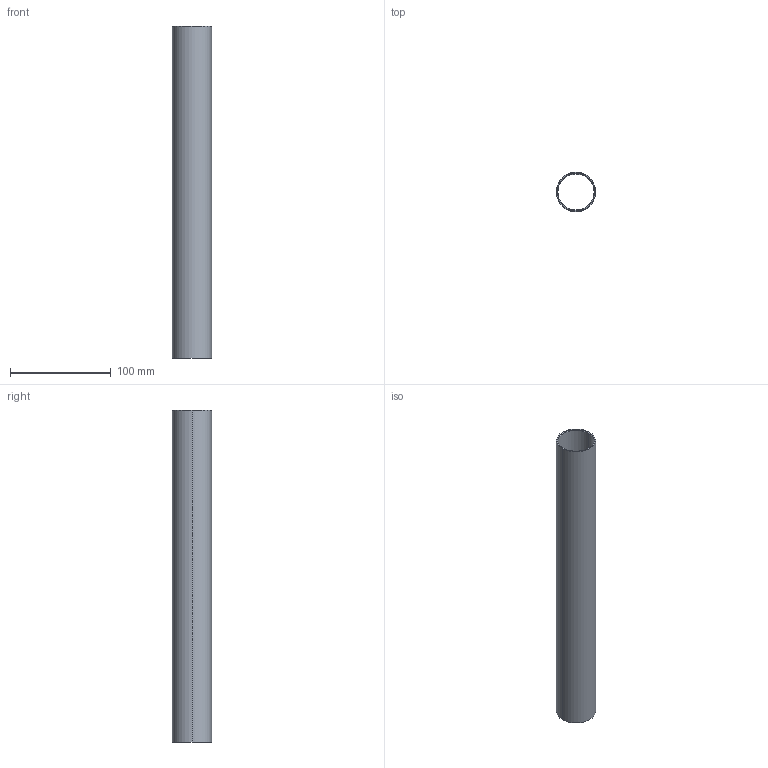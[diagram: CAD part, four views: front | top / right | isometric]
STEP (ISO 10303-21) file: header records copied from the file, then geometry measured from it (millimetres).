
FILE_DESCRIPTION(('FreeCAD Model'),'2;1');
FILE_NAME('Open CASCADE Shape Model','2026-07-02T19:45:36',(''),(''), 'Open CASCADE STEP processor 7.8','FreeCAD','Unknown');
FILE_SCHEMA(('AP242_MANAGED_MODEL_BASED_3D_ENGINEERING_MIM_LF. {1 0 10303 442 1 1 4 }'));
Length unit declared in the file: millimetre
Products named in the file (1): 75T0013
Bounding box: 39 x 39 x 330 mm (x, y, z)
Volume: 58286.9 mm3; surface area: 78041.9 mm2
Topology: 1 solids, 1 shells, 10 faces, 20 edges, 12 vertices
Faces by surface type: cylinder 4, cone 4, plane 2
Entity records: 290 total; most frequent: DIRECTION 54, CARTESIAN_POINT 43, ORIENTED_EDGE 40, AXIS2_PLACEMENT_3D 23, EDGE_CURVE 20, FACE_BOUND 12, EDGE_LOOP 12, VERTEX_POINT 12
